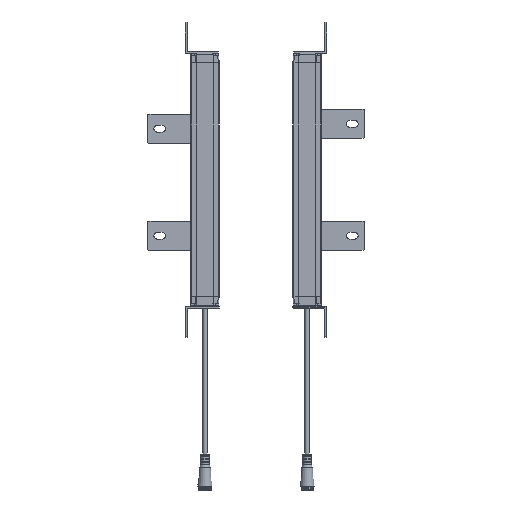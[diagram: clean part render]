
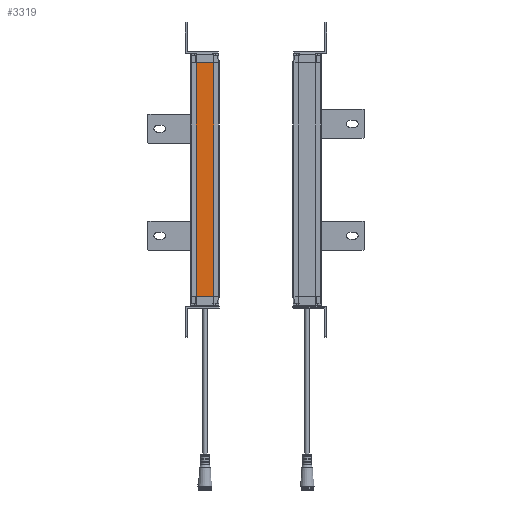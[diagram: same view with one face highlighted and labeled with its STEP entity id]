
A CAD part, left-side view. The second image highlights one B-rep face of the part: STEP entity #3319.
In plain terms, the highlighted planar face has unit normal (-1, 0, 0).
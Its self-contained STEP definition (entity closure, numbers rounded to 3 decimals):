
#1795=FACE_OUTER_BOUND('',#5986,.T.);
#3319=ADVANCED_FACE('',(#1795),#4749,.T.);
#4749=PLANE('',#29857);
#5986=EDGE_LOOP('',(#9184,#9185,#9186,#9187));
#9184=ORIENTED_EDGE('',*,*,#19383,.F.);
#9185=ORIENTED_EDGE('',*,*,#19072,.T.);
#9186=ORIENTED_EDGE('',*,*,#19385,.T.);
#9187=ORIENTED_EDGE('',*,*,#19386,.F.);
#16145=VERTEX_POINT('',#43699);
#16146=VERTEX_POINT('',#43701);
#16357=VERTEX_POINT('',#44323);
#16358=VERTEX_POINT('',#44327);
#19072=EDGE_CURVE('',#16146,#16145,#24663,.T.);
#19383=EDGE_CURVE('',#16146,#16357,#24884,.T.);
#19385=EDGE_CURVE('',#16145,#16358,#24886,.T.);
#19386=EDGE_CURVE('',#16357,#16358,#24887,.T.);
#24663=LINE('',#43700,#27142);
#24884=LINE('',#44322,#27363);
#24886=LINE('',#44326,#27365);
#24887=LINE('',#44328,#27366);
#27142=VECTOR('',#33404,1.);
#27363=VECTOR('',#34005,1.);
#27365=VECTOR('',#34009,1.);
#27366=VECTOR('',#34010,1.);
#29857=AXIS2_PLACEMENT_3D('',#44329,#34011,#34012);
#33404=DIRECTION('',(0.,1.,0.));
#34005=DIRECTION('',(0.,0.,-1.));
#34009=DIRECTION('',(0.,0.,-1.));
#34010=DIRECTION('',(0.,1.,0.));
#34011=DIRECTION('',(-1.,0.,0.));
#34012=DIRECTION('',(0.,-1.,0.));
#43699=CARTESIAN_POINT('',(50.4,-5.5,198.059));
#43700=CARTESIAN_POINT('',(50.4,-5.5,198.059));
#43701=CARTESIAN_POINT('',(50.4,-23.5,198.059));
#44322=CARTESIAN_POINT('',(50.4,-23.5,103.059));
#44323=CARTESIAN_POINT('',(50.4,-23.5,-41.941));
#44326=CARTESIAN_POINT('',(50.4,-5.5,103.059));
#44327=CARTESIAN_POINT('',(50.4,-5.5,-41.941));
#44328=CARTESIAN_POINT('',(50.4,-23.5,-41.941));
#44329=CARTESIAN_POINT('',(50.4,-5.5,-61.941));
